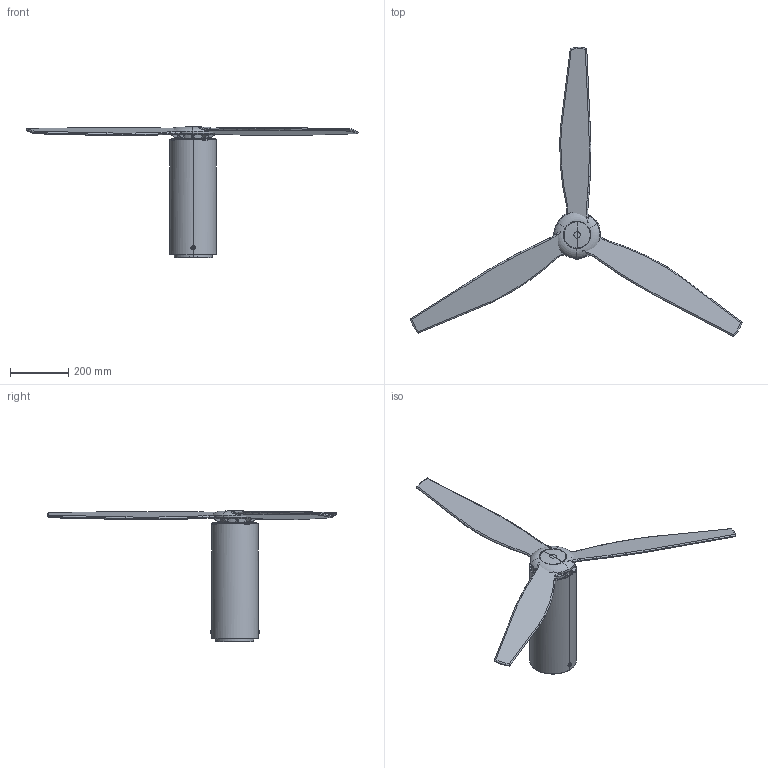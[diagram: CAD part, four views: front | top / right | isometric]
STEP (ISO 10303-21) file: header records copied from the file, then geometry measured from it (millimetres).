
FILE_DESCRIPTION(/* description */ (''),/* implementation_level */ '2;1');
FILE_NAME(/* name */ 'C:\Users\Franco Sartori E\Documents\FARO\DUPLICADO\Modelos\01_Digitalizados\PRIORIZACION 2D\3_TUBEFAN\03_Publicación\TUBEFAN\33374W.stp',/* time_stamp */ '2020-12-07T12:05:31+01:00',/* author */ ('Franco Sartori E'),/* organization */ (''),/* preprocessor_version */ 'ST-DEVELOPER v18.1',/* originating_system */ 'AutoCAD Mechanical',/* authorisation */ '');
FILE_SCHEMA (('AUTOMOTIVE_DESIGN { 1 0 10303 214 3 1 1 }'));
Length unit declared in the file: millimetre
Products named in the file (2): Product; TUBEFAN_1280 - FAN-472376-_3D_
Assembly tree (1 placements, depth 2):
  Product
    TUBEFAN_1280 - FAN-472376-_3D_
Bounding box: 1139.85 x 993.04 x 449.96 mm (x, y, z)
Volume: 3222007.3 mm3; surface area: 1011331.1 mm2
Topology: 24 solids, 24 shells, 613 faces, 1525 edges, 972 vertices
Faces by surface type: plane 198, cylinder 162, torus 144, bspline 68, cone 37, sphere 4
Entity records: 24430 total; most frequent: CARTESIAN_POINT 10996, ORIENTED_EDGE 3042, DIRECTION 2336, EDGE_CURVE 1521, VERTEX_POINT 971, AXIS2_PLACEMENT_3D 927, EDGE_LOOP 662, B_SPLINE_CURVE_WITH_KNOTS 636
